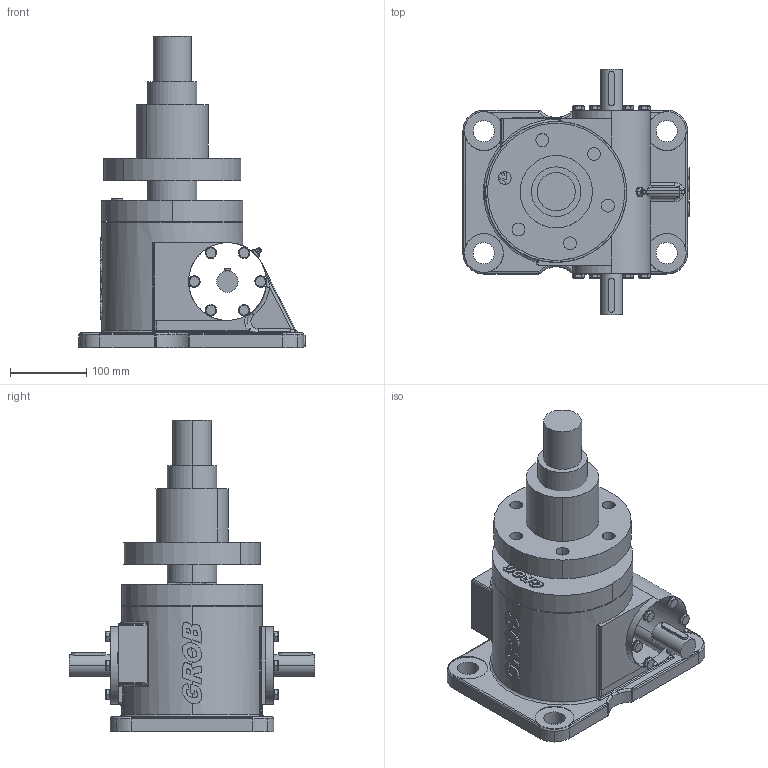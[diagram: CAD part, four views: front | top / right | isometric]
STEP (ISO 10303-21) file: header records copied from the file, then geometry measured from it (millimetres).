
FILE_DESCRIPTION(('STEP AP203'),'1');
FILE_NAME('mc20-lmn-f-1f-z-0005-0155-tr65x12-ab-mg0-o_ohne.stp','2023-12-20T14:56:02',('TraceParts'),('TraceParts S.A.'),'Spatial InterOp 3D',' ',' ');
FILE_SCHEMA(('CONFIG_CONTROL_DESIGN'));
Length unit declared in the file: millimetre
Products named in the file (1): 1
Bounding box: 296.9 x 322 x 409 mm (x, y, z)
Volume: 9037752.9 mm3; surface area: 452317 mm2
Topology: 3 solids, 3 shells, 2225 faces, 6284 edges, 4103 vertices
Faces by surface type: cylinder 1413, plane 619, cone 114, bspline 58, torus 15, sphere 6
Entity records: 75192 total; most frequent: CARTESIAN_POINT 15731, DIRECTION 13267, ORIENTED_EDGE 12522, EDGE_CURVE 6261, AXIS2_PLACEMENT_3D 5147, VERTEX_POINT 4103, LINE 2973, VECTOR 2973
